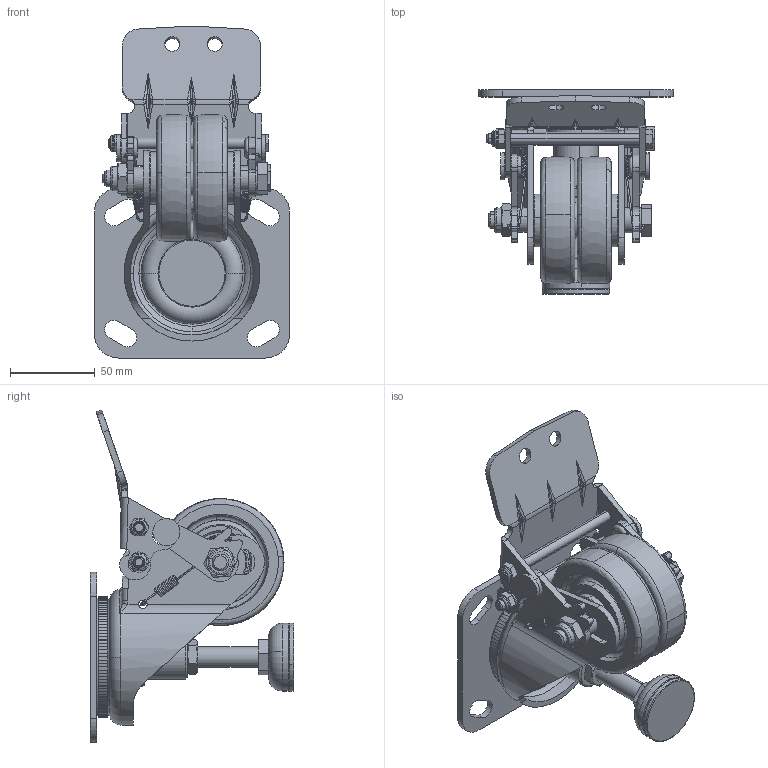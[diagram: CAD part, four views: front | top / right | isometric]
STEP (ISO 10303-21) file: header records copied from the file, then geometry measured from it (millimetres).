
FILE_DESCRIPTION (( 'STEP AP203' ), '1' );
FILE_NAME ('3寸活動支撐升降QPU輪（長踏板QD)_1.STEP', '2025-07-03T02:11:33', ( '' ), ( '' ), 'SwSTEP 2.0', 'SolidWorks 2021', '' );
FILE_SCHEMA (( 'CONFIG_CONTROL_DESIGN' ));
Length unit declared in the file: millimetre
Products named in the file (24): hex thin nuts-grades ab-chamfered gb_GB_FASTENER_NUT_STNAB M12-N; 3寸升降接板; 車心8; 車心10; 51炵蹈D倰菁啣_蕼偞; 車心孔限位套管; 平墊片6.4x12x1; 10.2x12.7x49中管; 复件 复件 2.5-3寸活動支撐調節中心鉚釘^3寸活動支撐升降QPU輪（長踏板QD)_1_預設; 复件 复件 橡膠墊^3寸活動支撐升降QPU輪（長踏板QD)_1_預設; 3渡ZQPU謫; 复件 复件 支撐著固定盤^3寸活動支撐升降QPU輪（長踏板QD)_1_預設; 51系列防塵圈(1); 彈簧5mm; M6尼帽_默_; 3寸活動支撐升降QPU輪（長踏板QD)_1; 限位鉚釘; 長升降踏板 - 修改成型位置; 踏板限位套管; 3寸升降腳; 17.2x25x2墊片; 連接板鉚釘; 尼帽M10; 复件 复件 調節螺絲4^3寸活動支撐升降QPU輪（長踏板QD)_1_預設
Assembly tree (30 placements, depth 2):
  3寸活動支撐升降QPU輪（長踏板QD)_1
    3寸升降腳
    3寸升降接板  x2
    連接板鉚釘  x2
    車心8
    平墊片6.4x12x1
    M6尼帽_默_  x2
    限位鉚釘
    車心孔限位套管  x2
    車心10
    尼帽M10
    51系列防塵圈(1)
    彈簧5mm  x2
    長升降踏板 - 修改成型位置
    踏板限位套管  x2
    10.2x12.7x49中管
    17.2x25x2墊片  x2
    复件 复件 2.5-3寸活動支撐調節中心鉚釘^3寸活動支撐升降QPU輪（長踏板QD)_1_預設
    复件 复件 支撐著固定盤^3寸活動支撐升降QPU輪（長踏板QD)_1_預設
    复件 复件 橡膠墊^3寸活動支撐升降QPU輪（長踏板QD)_1_預設
    复件 复件 調節螺絲4^3寸活動支撐升降QPU輪（長踏板QD)_1_預設
    hex thin nuts-grades ab-chamfered gb_GB_FASTENER_NUT_STNAB M12-N
    3渡ZQPU謫
    51炵蹈D倰菁啣_蕼偞
Bounding box: 115 x 120.15 x 195.62 mm (x, y, z)
Volume: 365144.6 mm3; surface area: 171612.1 mm2
Topology: 35 solids, 37 shells, 1601 faces, 4102 edges, 2606 vertices
Faces by surface type: plane 617, cylinder 450, torus 275, cone 148, bspline 111
Entity records: 60596 total; most frequent: CARTESIAN_POINT 20711, DIRECTION 8077, ORIENTED_EDGE 7696, EDGE_CURVE 3848, AXIS2_PLACEMENT_3D 3111, VERTEX_POINT 2463, VECTOR 1855, LINE 1855
